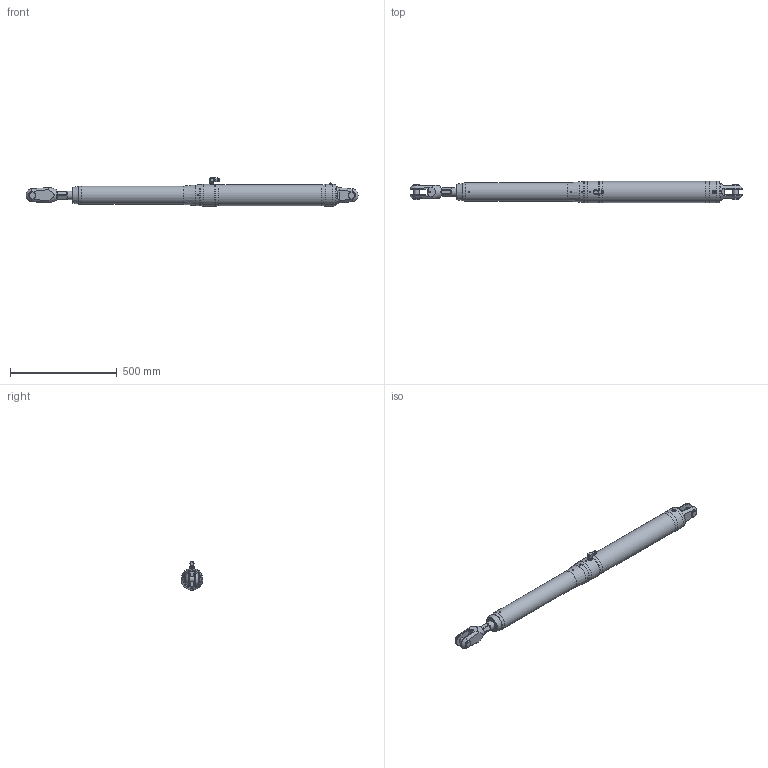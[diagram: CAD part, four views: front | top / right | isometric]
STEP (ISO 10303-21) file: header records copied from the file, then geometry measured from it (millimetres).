
FILE_DESCRIPTION(/* description */ (''),/* implementation_level */ '2;1');
FILE_NAME(/* name */ 'Q:\AA BRAND HYDRAULICS\HYDRAULICS FAMILY DIRECTORY\HYDRAULICS\CYLINDERS\MECHANICAL LOCK RAMS\ALUMINIUM - STAINLESS SINGLE ACTING (-0012 To -0150)\MSA-0040-S0475-NP-71\MSA-0040-S0475-NP-71 (Closed).stp',/* time_stamp */ '2018-04-25T16:17:45+01:00',/* author */ ('Lorena'),/* organization */ (''),/* preprocessor_version */ 'ST-DEVELOPER v17',/* originating_system */ 'Autodesk Inventor 2018',/* authorisation */ '');
FILE_SCHEMA (('AUTOMOTIVE_DESIGN { 1 0 10303 214 3 1 1 }'));
Length unit declared in the file: millimetre
Products named in the file (1): MSA-0040-S0475-NP-71 (Closed)
Bounding box: 1557.19 x 102.2 x 133 mm (x, y, z)
Volume: 9245091.5 mm3; surface area: 470432.1 mm2
Topology: 2 solids, 6 shells, 502 faces, 1296 edges, 843 vertices
Faces by surface type: plane 283, cone 124, cylinder 81, torus 6, sphere 4, bspline 4
Full cylindrical faces by diameter (mm): 4 x1, 4.134 x1, 4.2 x2, 5 x7, 5.1 x1, 5.9 x1, 7 x1, 9 x1, 10 x2, 11.157 x1, 11.5 x1, 11.8 x1, 12 x1, 12.157 x1, 12.77 x1, 13 x1, 13.157 x2, 14.5 x2, 16 x2, 18.3 x3, 22 x1, 25.4 x2, 25.5 x1, 31.75 x2, 40 x2, 41 x2, 44 x1, 86 x1, 99.2 x1, 102.2 x4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
Entity records: 16739 total; most frequent: CARTESIAN_POINT 4113, ORIENTED_EDGE 2574, DIRECTION 2525, EDGE_CURVE 1287, AXIS2_PLACEMENT_3D 973, VERTEX_POINT 843, LINE 579, VECTOR 579
